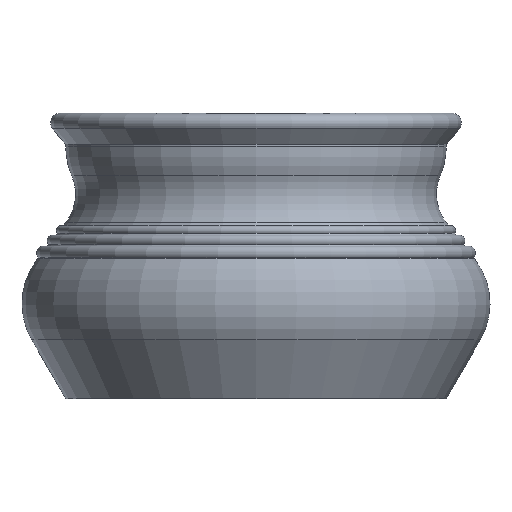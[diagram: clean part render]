
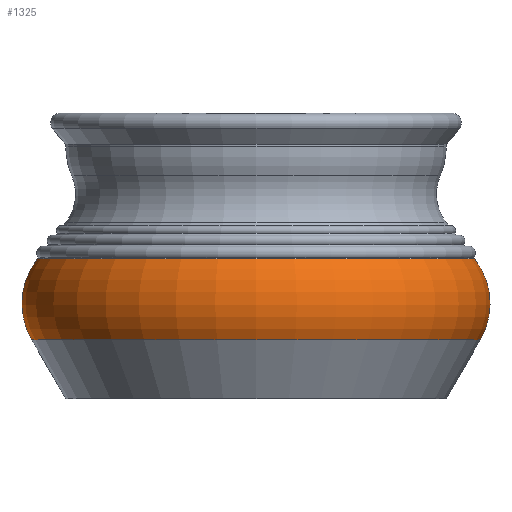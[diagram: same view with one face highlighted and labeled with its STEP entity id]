
A CAD part, front view. The second image highlights one B-rep face of the part: STEP entity #1325.
In plain terms, the highlighted toroidal (fillet/blend) face has major radius 84.901 mm and minor radius 38.099 mm.
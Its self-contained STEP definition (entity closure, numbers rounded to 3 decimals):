
#22=TOROIDAL_SURFACE('',#1505,84.901,38.099);
#166=FACE_OUTER_BOUND('',#284,.T.);
#284=EDGE_LOOP('',(#1208,#1209,#1210,#1211));
#526=CIRCLE('',#1467,117.883);
#549=CIRCLE('',#1506,114.889);
#550=CIRCLE('',#1507,38.099);
#653=VERTEX_POINT('',#2240);
#669=VERTEX_POINT('',#2303);
#818=EDGE_CURVE('',#653,#653,#526,.T.);
#849=EDGE_CURVE('',#669,#669,#549,.T.);
#850=EDGE_CURVE('',#669,#653,#550,.T.);
#1208=ORIENTED_EDGE('',*,*,#849,.F.);
#1209=ORIENTED_EDGE('',*,*,#850,.T.);
#1210=ORIENTED_EDGE('',*,*,#818,.T.);
#1211=ORIENTED_EDGE('',*,*,#850,.F.);
#1325=ADVANCED_FACE('',(#166),#22,.T.);
#1467=AXIS2_PLACEMENT_3D('',#2241,#1837,#1838);
#1505=AXIS2_PLACEMENT_3D('',#2302,#1921,#1922);
#1506=AXIS2_PLACEMENT_3D('',#2304,#1923,#1924);
#1507=AXIS2_PLACEMENT_3D('',#2305,#1925,#1926);
#1837=DIRECTION('center_axis',(0.,0.,1.));
#1838=DIRECTION('ref_axis',(1.,0.,0.));
#1921=DIRECTION('center_axis',(0.,0.,1.));
#1922=DIRECTION('ref_axis',(1.,0.,0.));
#1923=DIRECTION('center_axis',(0.,0.,1.));
#1924=DIRECTION('ref_axis',(1.,0.,0.));
#1925=DIRECTION('center_axis',(0.,-1.,0.));
#1926=DIRECTION('ref_axis',(-1.,0.,0.));
#2240=CARTESIAN_POINT('',(-117.883,0.,30.929));
#2241=CARTESIAN_POINT('Origin',(0.,0.,30.929));
#2302=CARTESIAN_POINT('Origin',(0.,0.,50.));
#2303=CARTESIAN_POINT('',(-114.889,0.,73.5));
#2304=CARTESIAN_POINT('Origin',(0.,0.,73.5));
#2305=CARTESIAN_POINT('Origin',(-84.901,0.,
50.));
